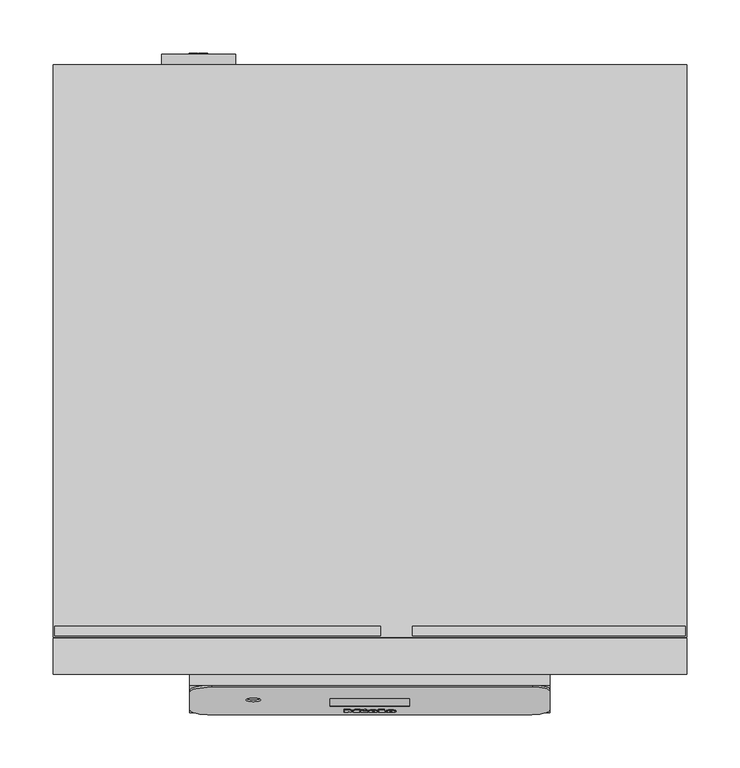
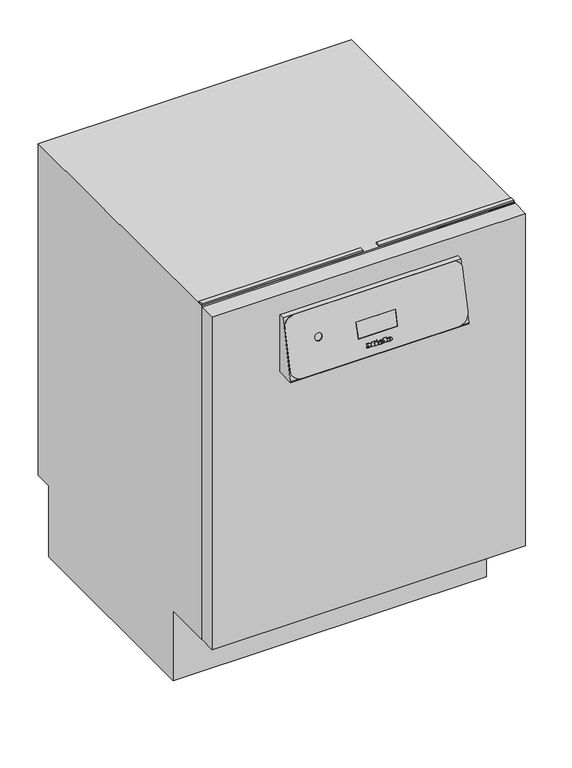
"""IFC4 building model written with IfcOpenShell, lengths in millimetres: proxy geometry, 12066590_NAM_PFD401U_SST : 61040135_NAM_12066590_PFD401U_SST."""

from ifc_helpers import new_model, si_unit, point, frame, frame_2d, origin, origin_with_axes, place, context, project, spatial, polyline, circle_curve, ellipse_curve, trimmed, segment, composite_curve, outline, extrude, source, transform, mapped, element, save
from ifc_brep_helpers import plane_surface, cylinder_surface, revolved_surface, extruded_surface, advanced_brep


def specialty_equipment_e0cb4e43(model_context):
    return source(origin(), model_context, "Body", "SolidModel", [
        advanced_brep(
        [(19.2098411, -35.3170778, 679.7116041), (19.2098411, -35.1353173, 680.4988951), (24.5618411, -35.1353173, 680.4988951), (15.2498411, -35.1353173, 680.4988951), (17.4498411, -35.743585, 677.8641985), (24.4258411, -35.3170778, 679.7116041), (22.0098411, -35.3170778, 679.7116041), (20.1058411, -35.5186339, 678.8385685), (19.2098411, -34.9049675, 681.4966501), (19.2098411, -34.7088101, 682.3463008), (20.5778411, -34.7088101, 682.3463008), (20.5778411, -34.9049675, 681.4966501), (19.2098411, -34.3427077, 679.4866531), (20.1058411, -34.5442639, 678.6136175), (22.0098411, -34.3427077, 679.4866531), (24.4258411, -34.3427077, 679.4866531), (17.4498411, -34.7692149, 677.6392474), (15.2498411, -34.1609473, 680.2739441), (24.5618411, -34.1609473, 680.2739441), (19.2098411, -34.1609473, 680.2739441), (19.2098411, -33.9305974, 681.271699), (20.5778411, -33.9305974, 681.271699), (20.5778411, -33.7344401, 682.1213497), (19.2098411, -33.7344401, 682.1213497)],
        [
            (0, 1),
            (1, 2),
            (2, 3, ellipse_curve(frame((19.9058411, -35.1353173, 680.4988951), z_axis=(0.0, -0.9743700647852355, 0.22495105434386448), x_axis=(-1.0, 0.0, 0.0)), 4.656, 3.848)),
            (3, 4, circle_curve(frame((18.3458847, -35.0741307, 680.7639238), z_axis=(0.0, -0.9743700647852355, 0.22495105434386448), x_axis=(0.0, -0.22495105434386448, -0.9743700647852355)), 3.1079688)),
            (4, 5, circle_curve(frame((19.8126347, -34.599034, 682.8217934), z_axis=(0.0, -0.9743700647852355, 0.22495105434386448), x_axis=(0.0, -0.22495105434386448, -0.9743700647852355)), 5.6098607)),
            (5, 6),
            (6, 7, circle_curve(frame((20.4968999, -35.1497142, 680.4365354), z_axis=(0.0, 0.9743700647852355, -0.22495105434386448), x_axis=(0.0, -0.22495105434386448, -0.9743700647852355)), 1.6859795)),
            (7, 0, circle_curve(frame((20.1058411, -35.3170778, 679.7116041), z_axis=(0.0, 0.9743700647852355, -0.22495105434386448), x_axis=(0.0, -0.22495105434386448, -0.9743700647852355)), 0.896)),
            (8, 9),
            (9, 10, circle_curve(frame((19.8938411, -34.7088101, 682.3463008), z_axis=(0.0, 0.9743700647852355, -0.22495105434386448), x_axis=(0.0, -0.22495105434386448, -0.9743700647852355)), 0.684)),
            (10, 11),
            (11, 8),
            (12, 13, circle_curve(frame((20.1058411, -34.3427077, 679.4866531), z_axis=(0.0, -0.9743700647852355, 0.22495105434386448), x_axis=(0.0, -0.22495105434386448, -0.9743700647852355)), 0.896)),
            (13, 14, circle_curve(frame((20.4968999, -34.1753441, 680.2115844), z_axis=(0.0, -0.9743700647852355, 0.22495105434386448), x_axis=(0.0, -0.22495105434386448, -0.9743700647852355)), 1.6859795)),
            (14, 15),
            (15, 16, circle_curve(frame((19.8126347, -33.624664, 682.5968423), z_axis=(0.0, 0.9743700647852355, -0.22495105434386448), x_axis=(0.0, -0.22495105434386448, -0.9743700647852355)), 5.6098607)),
            (16, 17, circle_curve(frame((18.3458847, -34.0997606, 680.5389727), z_axis=(0.0, 0.9743700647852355, -0.22495105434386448), x_axis=(0.0, -0.22495105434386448, -0.9743700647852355)), 3.1079688)),
            (17, 18, ellipse_curve(frame((19.9058411, -34.1609473, 680.2739441), z_axis=(0.0, 0.9743700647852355, -0.22495105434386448), x_axis=(-1.0, 0.0, 0.0)), 4.656, 3.848)),
            (18, 19),
            (19, 12),
            (20, 21),
            (21, 22),
            (22, 23, circle_curve(frame((19.8938411, -33.7344401, 682.1213497), z_axis=(0.0, -0.9743700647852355, 0.22495105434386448), x_axis=(0.0, -0.22495105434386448, -0.9743700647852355)), 0.684)),
            (23, 20),
            (0, 12),
            (19, 1),
            (18, 2),
            (5, 15),
            (14, 6),
            (17, 3),
            (13, 7),
            (16, 4),
            (8, 20),
            (23, 9),
            (22, 10),
            (21, 11),
        ],
        [
            plane_surface(frame((19.2098411, -35.1353173, 680.4988951), z_axis=(0.0, -0.9743700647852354, 0.22495105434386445), x_axis=(0.0, 0.22495105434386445, 0.9743700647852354))),
            plane_surface(frame((19.2098411, -34.1609473, 680.2739441), z_axis=(0.0, 0.9743700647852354, -0.22495105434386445), x_axis=(0.0, -0.22495105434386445, -0.9743700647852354))),
            plane_surface(frame((19.2098411, -35.3170778, 679.7116041), z_axis=(1.0, 0.0, 0.0), x_axis=(0.0, 0.9743700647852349, -0.22495105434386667))),
            plane_surface(frame((19.2098411, -35.1353173, 680.4988951), z_axis=(0.0, -0.22495105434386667, -0.9743700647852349), x_axis=(0.0, 0.9743700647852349, -0.22495105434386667))),
            plane_surface(frame((24.4258411, -35.3170778, 679.7116041), z_axis=(0.0, 0.22495105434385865, 0.9743700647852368), x_axis=(0.0, 0.9743700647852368, -0.22495105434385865))),
            extruded_surface(trimmed(ellipse_curve(frame((19.9058411, -33.1865772, 680.048993), z_axis=(0.0, -0.9743700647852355, 0.22495105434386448), x_axis=(-1.0, 0.0, 0.0)), 4.656, 3.848), [point((24.5618411, -33.1865772, 680.048993))], [point((15.2498411, -33.1865772, 680.048993))], True, "CARTESIAN"), (0.0, -0.9743700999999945, 0.2249510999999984), 1.0000000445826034),
            revolved_surface(polyline([(20.4968999, -34.55460696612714, 678.5688164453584), (20.4968999, -35.52897707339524, 678.7937675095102)]), (20.4968999, -34.1753441, 680.2115844), (0.0, 0.9743700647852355, -0.22495105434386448)),
            revolved_surface(polyline([(20.1058411, -34.544263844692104, 678.6136175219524), (20.1058411, -35.51863393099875, 678.8385685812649)]), (20.1058411, -34.3427077, 679.4866531), (0.0, 0.9743700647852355, -0.22495105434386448)),
            cylinder_surface(frame((18.3458847, -34.0997606, 680.5389727), z_axis=(0.0, -0.9743700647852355, 0.22495105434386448), x_axis=(0.0, -0.22495105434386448, -0.9743700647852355)), 3.1079688),
            cylinder_surface(frame((19.8126347, -33.624664, 682.5968423), z_axis=(0.0, -0.9743700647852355, 0.22495105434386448), x_axis=(0.0, -0.22495105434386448, -0.9743700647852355)), 5.6098607),
            plane_surface(frame((19.2098411, -34.9049675, 681.4966501), z_axis=(1.0, 0.0, 0.0), x_axis=(0.0, 0.9743700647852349, -0.22495105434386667))),
            revolved_surface(polyline([(19.8938411, -33.8883066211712, 681.4548805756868), (19.8938411, -34.8626766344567, 681.6798316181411)]), (19.8938411, -33.7344401, 682.1213497), (0.0, 0.9743700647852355, -0.22495105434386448)),
            plane_surface(frame((20.5778411, -34.7088101, 682.3463008), z_axis=(-1.0, 0.0, 0.0), x_axis=(0.0, 0.9743700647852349, -0.22495105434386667))),
            plane_surface(frame((20.5778411, -34.9049675, 681.4966501), z_axis=(0.0, 0.22495105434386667, 0.9743700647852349), x_axis=(0.0, 0.9743700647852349, -0.22495105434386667))),
        ],
        [
            (0, [[1, 2, 3, 4, 5, 6, 7, 8], [9, 10, 11, 12]]),
            (1, [[13, 14, 15, 16, 17, 18, 19, 20], [21, 22, 23, 24]]),
            (2, [[-1, 25, -20, 26]]),
            (3, [[-2, -26, -19, 27]]),
            (4, [[-6, 28, -15, 29]]),
            (5, [[-3, -27, -18, 30]]),
            (6, [[-7, -29, -14, 31]]),
            (7, [[-8, -31, -13, -25]]),
            (8, [[-4, -30, -17, 32]]),
            (9, [[-5, -32, -16, -28]]),
            (10, [[-9, 33, -24, 34]]),
            (11, [[-10, -34, -23, 35]]),
            (12, [[-11, -35, -22, 36]]),
            (13, [[-12, -36, -21, -33]]),
        ],
    ),
        advanced_brep(
        [(2.5138411, -35.3170778, 679.7116041), (2.5138411, -35.1353173, 680.4988951), (7.8658411, -35.1353173, 680.4988951), (-1.4461589, -35.1353173, 680.4988951), (0.7538411, -35.743585, 677.8641985), (7.7298411, -35.3170778, 679.7116041), (5.3138411, -35.3170778, 679.7116041), (3.4098411, -35.5186339, 678.8385685), (2.5138411, -34.9049675, 681.4966501), (2.5138411, -34.7088101, 682.3463008), (3.8818411, -34.7088101, 682.3463008), (3.8818411, -34.9049675, 681.4966501), (2.5138411, -34.3427077, 679.4866531), (3.4098411, -34.5442639, 678.6136175), (5.3138411, -34.3427077, 679.4866531), (7.7298411, -34.3427077, 679.4866531), (0.7538411, -34.7692149, 677.6392474), (-1.4461589, -34.1609473, 680.2739441), (7.8658411, -34.1609473, 680.2739441), (2.5138411, -34.1609473, 680.2739441), (2.5138411, -33.9305974, 681.271699), (3.8818411, -33.9305974, 681.271699), (3.8818411, -33.7344401, 682.1213497), (2.5138411, -33.7344401, 682.1213497)],
        [
            (0, 1),
            (1, 2),
            (2, 3, ellipse_curve(frame((3.2098411, -35.1353173, 680.4988951), z_axis=(0.0, -0.9743700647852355, 0.22495105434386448), x_axis=(-1.0, 0.0, 0.0)), 4.656, 3.848)),
            (3, 4, circle_curve(frame((1.6498847, -35.0741307, 680.7639238), z_axis=(0.0, -0.9743700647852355, 0.22495105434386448), x_axis=(0.0, -0.22495105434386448, -0.9743700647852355)), 3.1079688)),
            (4, 5, circle_curve(frame((3.1166347, -34.599034, 682.8217934), z_axis=(0.0, -0.9743700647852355, 0.22495105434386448), x_axis=(0.0, -0.22495105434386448, -0.9743700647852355)), 5.6098607)),
            (5, 6),
            (6, 7, circle_curve(frame((3.8008999, -35.1497142, 680.4365354), z_axis=(0.0, 0.9743700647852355, -0.22495105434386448), x_axis=(0.0, -0.22495105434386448, -0.9743700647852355)), 1.6859795)),
            (7, 0, circle_curve(frame((3.4098411, -35.3170778, 679.7116041), z_axis=(0.0, 0.9743700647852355, -0.22495105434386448), x_axis=(0.0, -0.22495105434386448, -0.9743700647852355)), 0.896)),
            (8, 9),
            (9, 10, circle_curve(frame((3.1978411, -34.7088101, 682.3463008), z_axis=(0.0, 0.9743700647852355, -0.22495105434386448), x_axis=(0.0, -0.22495105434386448, -0.9743700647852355)), 0.684)),
            (10, 11),
            (11, 8),
            (12, 13, circle_curve(frame((3.4098411, -34.3427077, 679.4866531), z_axis=(0.0, -0.9743700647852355, 0.22495105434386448), x_axis=(0.0, -0.22495105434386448, -0.9743700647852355)), 0.896)),
            (13, 14, circle_curve(frame((3.8008999, -34.1753441, 680.2115844), z_axis=(0.0, -0.9743700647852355, 0.22495105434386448), x_axis=(0.0, -0.22495105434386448, -0.9743700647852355)), 1.6859795)),
            (14, 15),
            (15, 16, circle_curve(frame((3.1166347, -33.624664, 682.5968423), z_axis=(0.0, 0.9743700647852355, -0.22495105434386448), x_axis=(0.0, -0.22495105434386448, -0.9743700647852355)), 5.6098607)),
            (16, 17, circle_curve(frame((1.6498847, -34.0997606, 680.5389727), z_axis=(0.0, 0.9743700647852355, -0.22495105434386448), x_axis=(0.0, -0.22495105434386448, -0.9743700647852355)), 3.1079688)),
            (17, 18, ellipse_curve(frame((3.2098411, -34.1609473, 680.2739441), z_axis=(0.0, 0.9743700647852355, -0.22495105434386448), x_axis=(-1.0, 0.0, 0.0)), 4.656, 3.848)),
            (18, 19),
            (19, 12),
            (20, 21),
            (21, 22),
            (22, 23, circle_curve(frame((3.1978411, -33.7344401, 682.1213497), z_axis=(0.0, -0.9743700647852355, 0.22495105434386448), x_axis=(0.0, -0.22495105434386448, -0.9743700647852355)), 0.684)),
            (23, 20),
            (0, 12),
            (19, 1),
            (18, 2),
            (5, 15),
            (14, 6),
            (17, 3),
            (13, 7),
            (16, 4),
            (8, 20),
            (23, 9),
            (22, 10),
            (21, 11),
        ],
        [
            plane_surface(frame((2.5138411, -35.1353173, 680.4988951), z_axis=(0.0, -0.9743700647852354, 0.22495105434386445), x_axis=(0.0, 0.22495105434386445, 0.9743700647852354))),
            plane_surface(frame((2.5138411, -34.1609473, 680.2739441), z_axis=(0.0, 0.9743700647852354, -0.22495105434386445), x_axis=(0.0, -0.22495105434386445, -0.9743700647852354))),
            plane_surface(frame((2.5138411, -35.3170778, 679.7116041), z_axis=(1.0000000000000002, 0.0, 0.0), x_axis=(0.0, 0.9743700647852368, -0.22495105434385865))),
            plane_surface(frame((2.5138411, -35.1353173, 680.4988951), z_axis=(0.0, -0.22495105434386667, -0.9743700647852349), x_axis=(0.0, 0.9743700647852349, -0.22495105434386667))),
            plane_surface(frame((7.7298411, -35.3170778, 679.7116041), z_axis=(0.0, 0.22495105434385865, 0.9743700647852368), x_axis=(0.0, 0.9743700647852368, -0.22495105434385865))),
            extruded_surface(trimmed(ellipse_curve(frame((3.2098411, -33.1865772, 680.048993), z_axis=(0.0, -0.9743700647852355, 0.22495105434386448), x_axis=(-1.0, 0.0, 0.0)), 4.656, 3.848), [point((7.8658411, -33.1865772, 680.048993))], [point((-1.4461589, -33.1865772, 680.048993))], True, "CARTESIAN"), (0.0, -0.9743700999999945, 0.2249510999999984), 1.0000000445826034),
            revolved_surface(polyline([(3.8008999, -34.55460696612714, 678.5688164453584), (3.8008999, -35.52897707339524, 678.7937675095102)]), (3.8008999, -34.1753441, 680.2115844), (0.0, 0.9743700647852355, -0.22495105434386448)),
            revolved_surface(polyline([(3.4098411, -34.544263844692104, 678.6136175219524), (3.4098411, -35.51863393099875, 678.8385685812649)]), (3.4098411, -34.3427077, 679.4866531), (0.0, 0.9743700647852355, -0.22495105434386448)),
            cylinder_surface(frame((1.6498847, -34.0997606, 680.5389727), z_axis=(0.0, -0.9743700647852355, 0.22495105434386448), x_axis=(0.0, -0.22495105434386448, -0.9743700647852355)), 3.1079688),
            cylinder_surface(frame((3.1166347, -33.624664, 682.5968423), z_axis=(0.0, -0.9743700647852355, 0.22495105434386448), x_axis=(0.0, -0.22495105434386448, -0.9743700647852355)), 5.6098607),
            plane_surface(frame((2.5138411, -34.9049675, 681.4966501), z_axis=(1.0, 0.0, 0.0), x_axis=(0.0, 0.9743700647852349, -0.22495105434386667))),
            revolved_surface(polyline([(3.1978411, -33.8883066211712, 681.4548805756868), (3.1978411, -34.8626766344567, 681.6798316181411)]), (3.1978411, -33.7344401, 682.1213497), (0.0, 0.9743700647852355, -0.22495105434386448)),
            plane_surface(frame((3.8818411, -34.7088101, 682.3463008), z_axis=(-1.0, 0.0, 0.0), x_axis=(0.0, 0.9743700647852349, -0.22495105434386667))),
            plane_surface(frame((3.8818411, -34.9049675, 681.4966501), z_axis=(0.0, 0.22495105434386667, 0.9743700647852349), x_axis=(0.0, 0.9743700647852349, -0.22495105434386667))),
        ],
        [
            (0, [[1, 2, 3, 4, 5, 6, 7, 8], [9, 10, 11, 12]]),
            (1, [[13, 14, 15, 16, 17, 18, 19, 20], [21, 22, 23, 24]]),
            (2, [[-1, 25, -20, 26]]),
            (3, [[-2, -26, -19, 27]]),
            (4, [[-6, 28, -15, 29]]),
            (5, [[-3, -27, -18, 30]]),
            (6, [[-7, -29, -14, 31]]),
            (7, [[-8, -31, -13, -25]]),
            (8, [[-4, -30, -17, 32]]),
            (9, [[-5, -32, -16, -28]]),
            (10, [[-9, 33, -24, 34]]),
            (11, [[-10, -34, -23, 35]]),
            (12, [[-11, -35, -22, 36]]),
            (13, [[-12, -36, -21, -33]]),
        ],
    ),
        extrude(outline(polyline([(0.0, 0.0), (-0.0109087, -2.9993294), (-1.4390415, -2.9920868), (-1.4315307, 0.0), (0.0, 0.0)])), frame((-6.2301589, -33.0757834, 684.9743053), z_axis=(0.0, -0.9743700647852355, 0.2249510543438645), x_axis=(-0.42472021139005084, 0.20365373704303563, 0.8821212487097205)), (0.0, 0.0, 1.0), 1.0),
        extrude(outline(polyline([(-0.4933908, 2.4141097), (-2.7800844, -2.4601583), (-7.0459742, -0.4588767), (-7.4401146, -1.2990179), (-8.6568709, -0.728194), (-5.9760369, 4.9862153), (-4.7592806, 4.4153913), (-5.1636142, 3.5535222), (-2.1941493, 2.16044), (-1.7898157, 3.022309), (-0.4933908, 2.4141097)])), frame((-6.2301589, -33.0757834, 684.9743053), z_axis=(0.0, -0.9743700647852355, 0.2249510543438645), x_axis=(-0.42472021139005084, 0.20365373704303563, 0.8821212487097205)), (0.0, 0.0, 1.0), 1.0),
        extrude(outline(polyline([(0.0, 0.0), (0.0, -1.3039999), (-5.504, -1.3039999), (-5.504, 5.352), (-6.488, 5.352), (-6.488, 6.696), (0.0, 6.696), (0.0, 5.352), (-0.96, 5.352), (-0.96, 0.0), (0.0, 0.0)])), frame((8.3138411, -33.2629427, 684.1636294), z_axis=(0.0, -0.9743700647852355, 0.22495105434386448), x_axis=(-1.0, 0.0, 0.0)), (0.0, 0.0, 1.0), 1.0),
        extrude(outline(polyline([(0.0, 0.0), (0.0, -1.3039999), (-5.576, -1.3039999), (-7.92, 1.6960001), (-10.256, -1.3039999), (-15.128, -1.3039999), (-15.128, 0.0), (-14.112, 0.0), (-14.112, 5.352), (-15.128, 5.352), (-15.128, 6.696), (-8.744, 6.696), (-8.744, 5.352), (-9.728, 5.352), (-9.728, 1.8807777), (-6.136, 6.696), (-2.56, 1.9488752), (-2.56, 5.352), (-3.52, 5.352), (-3.52, 6.696), (0.0, 6.696), (0.0, 5.352), (-0.968, 5.352), (-0.968, 0.0), (0.0, 0.0)])), frame((-24.1501589, -33.2629427, 684.1636294), z_axis=(0.0, -0.9743700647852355, 0.22495105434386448), x_axis=(-1.0, 0.0, 0.0)), (0.0, 0.0, 1.0), 1.0),
        extrude(outline(polyline([(-0.1038681, 775.5857792), (-0.1038681, 660.0), (-36.1981904, 660.0), (-36.1981904, 662.5588517), (-10.1038681, 775.5857792), (-0.1038681, 775.5857792)])), frame((-169.8831565, 0.0, 0.0), z_axis=(1.0, 0.0, 0.0), x_axis=(0.0, 1.0, 0.0)), (0.0, 0.0, 1.0), 339.766313),
        extrude(outline(polyline([(299.0, 34.0), (299.0, 0.0), (-299.0, 0.0), (-299.0, 34.0), (299.0, 34.0)])), frame((0.0, 0.0, 145.0), z_axis=(0.0, 0.0, 1.0), x_axis=(1.0, 0.0, 0.0)), (0.0, 0.0, 1.0), 670.0),
        advanced_brep(
        [(153.3281651, -12.0526082, 776.0356813), (-148.8831565, -12.0526082, 776.0356813), (-169.8831565, -16.7765804, 755.57391), (-169.8831565, -33.4229584, 683.4705252), (-148.8831565, -38.1469305, 663.0087538), (148.8831565, -38.1469305, 663.0087538), (169.8831565, -33.4229584, 683.4705252), (169.8831565, -15.776671, 759.9049933), (-102.8831565, -24.0088923, 724.2473253), (-116.8831565, -24.0088923, 724.2473253), (37.5, -23.1425191, 728.0), (37.5, -30.0685648, 698.0), (-37.5, -30.0685648, 698.0), (-37.5, -23.1425191, 728.0), (153.3281651, -10.1038681, 775.5857792), (169.8831565, -13.8279308, 759.4550912), (169.8831565, -31.4742182, 683.0206231), (148.8831565, -36.1981904, 662.5588517), (-148.8831565, -36.1981904, 662.5588517), (-169.8831565, -31.4742182, 683.0206231), (-169.8831565, -14.8278402, 755.1240079), (-148.8831565, -10.1038681, 775.5857792), (37.5, -28.0159566, 698.0), (37.5, -21.0899109, 728.0), (-37.5, -21.0899109, 728.0), (-37.5, -28.0159566, 698.0), (-116.8831565, -22.4281396, 723.8823798), (-102.8831565, -22.4281396, 723.8823798)],
        [
            (0, 1),
            (1, 2, circle_curve(frame((-148.8831565, -16.7765804, 755.57391), z_axis=(0.0, -0.9743700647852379, 0.22495105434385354), x_axis=(1.0, 0.0, 0.0)), 21.0)),
            (2, 3),
            (3, 4, circle_curve(frame((-148.8831565, -33.4229584, 683.4705252), z_axis=(0.0, -0.9743700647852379, 0.22495105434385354), x_axis=(1.0, 0.0, 0.0)), 21.0)),
            (4, 5),
            (5, 6, circle_curve(frame((148.8831565, -33.4229584, 683.4705252), z_axis=(0.0, -0.9743700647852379, 0.22495105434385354), x_axis=(1.0, 0.0, 0.0)), 21.0)),
            (6, 7),
            (7, 0, circle_curve(frame((153.3281651, -15.776671, 759.9049933), z_axis=(0.0, -0.9743700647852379, 0.22495105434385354), x_axis=(1.0, 0.0, 0.0)), 16.5549913)),
            (8, 9, circle_curve(frame((-109.8831565, -24.0088923, 724.2473253), z_axis=(0.0, 0.9743700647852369, -0.22495105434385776), x_axis=(1.0, 0.0, 0.0)), 7.0)),
            (9, 8, circle_curve(frame((-109.8831565, -24.0088923, 724.2473253), z_axis=(0.0, 0.9743700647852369, -0.22495105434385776), x_axis=(1.0, 0.0, 0.0)), 7.0)),
            (10, 11),
            (11, 12),
            (12, 13),
            (13, 10),
            (14, 15, circle_curve(frame((153.3281651, -13.8279308, 759.4550912), z_axis=(0.0, 0.9743700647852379, -0.22495105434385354), x_axis=(1.0, 0.0, 0.0)), 16.5549913)),
            (15, 16),
            (16, 17, circle_curve(frame((148.8831565, -31.4742182, 683.0206231), z_axis=(0.0, 0.9743700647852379, -0.22495105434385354), x_axis=(1.0, 0.0, 0.0)), 21.0)),
            (17, 18),
            (18, 19, circle_curve(frame((-148.8831565, -31.4742182, 683.0206231), z_axis=(0.0, 0.9743700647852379, -0.22495105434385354), x_axis=(1.0, 0.0, 0.0)), 21.0)),
            (19, 20),
            (20, 21, circle_curve(frame((-148.8831565, -14.8278402, 755.1240079), z_axis=(0.0, 0.9743700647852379, -0.22495105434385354), x_axis=(1.0, 0.0, 0.0)), 21.0)),
            (21, 14),
            (22, 23),
            (23, 24),
            (24, 25),
            (25, 22),
            (0, 14),
            (21, 1),
            (20, 2),
            (19, 3),
            (18, 4),
            (17, 5),
            (16, 6),
            (15, 7),
            (10, 23),
            (22, 11),
            (12, 25),
            (24, 13),
            (26, 27, circle_curve(frame((-109.8831565, -22.4281396, 723.8823798), z_axis=(0.0, -0.9743700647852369, 0.22495105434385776), x_axis=(1.0, 0.0, 0.0)), 7.0)),
            (27, 26, circle_curve(frame((-109.8831565, -22.4281396, 723.8823798), z_axis=(0.0, -0.9743700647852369, 0.22495105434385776), x_axis=(1.0, 0.0, 0.0)), 7.0)),
            (26, 9),
            (8, 27),
        ],
        [
            plane_surface(frame((-166.8819453, -12.0526082, 776.0356813), z_axis=(0.0, -0.9743700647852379, 0.22495105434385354), x_axis=(-1.0, 0.0, 0.0))),
            plane_surface(frame((-166.8819453, -10.1038681, 775.5857792), z_axis=(0.0, 0.9743700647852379, -0.22495105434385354), x_axis=(1.0, 0.0, 0.0))),
            plane_surface(frame((153.3281651, -12.0526082, 776.0356813), z_axis=(0.0, 0.22495105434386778, 0.9743700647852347), x_axis=(0.0, 0.9743700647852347, -0.22495105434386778))),
            cylinder_surface(frame((-148.8831565, -14.8278402, 755.1240079), z_axis=(0.0, -0.9743700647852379, 0.22495105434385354), x_axis=(1.0, 0.0, 0.0)), 21.0),
            plane_surface(frame((-169.8831565, -16.7765804, 755.57391), z_axis=(-1.0, 0.0, 0.0), x_axis=(0.0, 0.9743700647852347, -0.22495105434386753))),
            cylinder_surface(frame((-148.8831565, -31.4742182, 683.0206231), z_axis=(0.0, -0.9743700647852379, 0.22495105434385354), x_axis=(1.0, 0.0, 0.0)), 21.0),
            plane_surface(frame((-148.8831565, -38.1469305, 663.0087538), z_axis=(0.0, -0.22495105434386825, -0.9743700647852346), x_axis=(0.0, 0.9743700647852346, -0.22495105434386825))),
            cylinder_surface(frame((148.8831565, -31.4742182, 683.0206231), z_axis=(0.0, -0.9743700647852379, 0.22495105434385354), x_axis=(1.0, 0.0, 0.0)), 21.0),
            plane_surface(frame((169.8831565, -33.4229584, 683.4705252), z_axis=(1.0000000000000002, 0.0, 0.0), x_axis=(0.0, 0.9743700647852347, -0.22495105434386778))),
            cylinder_surface(frame((153.3281651, -13.8279308, 759.4550912), z_axis=(0.0, -0.9743700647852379, 0.22495105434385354), x_axis=(1.0, 0.0, 0.0)), 16.5549913),
            plane_surface(frame((37.5, -23.1425191, 728.0), z_axis=(-1.0000000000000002, 0.0, 0.0), x_axis=(0.0, -0.22495105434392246, -0.974370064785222))),
            plane_surface(frame((-37.5, -23.1425191, 728.0), z_axis=(1.0000000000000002, 0.0, 0.0), x_axis=(0.0, 0.22495105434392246, 0.974370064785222))),
            plane_surface(frame((37.5, -30.0685648, 698.0), z_axis=(0.0, 0.0, 1.0), x_axis=(-1.0, 0.0, 0.0))),
            plane_surface(frame((37.5, -21.0899109, 728.0), z_axis=(0.0, 0.0, -1.0), x_axis=(-1.0, 0.0, 0.0))),
            plane_surface(frame((-102.8831565, -22.4281396, 723.8823798), z_axis=(0.0, -0.9743700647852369, 0.2249510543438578), x_axis=(0.0, -0.2249510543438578, -0.9743700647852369))),
            revolved_surface(polyline([(-102.8831565, -24.008892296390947, 724.2473253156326), (-102.8831565, -22.4281396, 723.8823798)]), (-109.8831565, -22.4281396, 723.8823798), (0.0, -0.9743700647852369, 0.22495105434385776)),
        ],
        [
            (0, [[1, 2, 3, 4, 5, 6, 7, 8], [9, 10], [11, 12, 13, 14]]),
            (1, [[15, 16, 17, 18, 19, 20, 21, 22], [23, 24, 25, 26]]),
            (2, [[-1, 27, -22, 28]]),
            (3, [[-2, -28, -21, 29]]),
            (4, [[-3, -29, -20, 30]]),
            (5, [[-4, -30, -19, 31]]),
            (6, [[-5, -31, -18, 32]]),
            (7, [[-6, -32, -17, 33]]),
            (8, [[-7, -33, -16, 34]]),
            (9, [[-8, -34, -15, -27]]),
            (10, [[35, -23, 36, -11]]),
            (11, [[37, -25, 38, -13]]),
            (12, [[-36, -26, -37, -12]]),
            (13, [[-35, -14, -38, -24]]),
            (14, [[39, 40]]),
            (15, [[-39, 41, -9, 42]]),
            (15, [[-40, -42, -10, -41]]),
        ],
    ),
        extrude(outline(polyline([(-23.1425191, 728.0), (-21.0899109, 728.0), (-28.0159566, 698.0), (-30.0685648, 698.0), (-23.1425191, 728.0)])), frame((-37.5, 0.0, 0.0), z_axis=(1.0, 0.0, 0.0), x_axis=(0.0, 1.0, 0.0)), (0.0, 0.0, 1.0), 75.0),
        extrude(outline(polyline([(297.9027562, 45.259625), (297.9027562, 36.259625), (40.425123, 36.259625), (40.425123, 45.259625), (297.9027562, 45.259625)])), frame((0.0, 0.0, 817.0), z_axis=(0.0, 0.0, 1.0), x_axis=(1.0, 0.0, 0.0)), (0.0, 0.0, 1.0), 3.0),
        extrude(outline(polyline([(10.1158911, 45.259625), (10.1158911, 36.259625), (-297.5390632, 36.259625), (-297.5390632, 45.259625), (10.1158911, 45.259625)])), frame((0.0, 0.0, 817.0), z_axis=(0.0, 0.0, 1.0), x_axis=(1.0, 0.0, 0.0)), (0.0, 0.0, 1.0), 3.0),
        extrude(outline(polyline([(35.0, 817.0), (575.0, 817.0), (575.0, 148.0), (541.0, 148.0), (541.0, 4.2000122), (129.0, 4.2000122), (129.0, 145.0), (35.0, 145.0), (35.0, 817.0)])), frame((-299.0, 0.0, 0.0), z_axis=(1.0, 0.0, 0.0), x_axis=(0.0, 1.0, 0.0)), (0.0, 0.0, 1.0), 598.0),
        extrude(outline(polyline([(-172.0947306, 541.0), (-252.9150967, 541.0), (-252.9150967, 546.8796322), (-172.0947306, 546.8796322), (-172.0947306, 541.0)])), frame((0.0, 0.0, 83.2113443), z_axis=(0.0, 0.0, 1.0), x_axis=(1.0, 0.0, 0.0)), (0.0, 0.0, 1.0), 9.5402229),
        extrude(outline(polyline([(-172.0947306, 541.0), (-252.9150967, 541.0), (-252.9150967, 546.8796322), (-172.0947306, 546.8796322), (-172.0947306, 541.0)])), frame((0.0, 0.0, 49.1113767), z_axis=(0.0, 0.0, 1.0), x_axis=(1.0, 0.0, 0.0)), (0.0, 0.0, 1.0), 11.5700235),
        extrude(outline(polyline([(-172.0947306, 541.0), (-252.9150967, 541.0), (-252.9150967, 546.8796322), (-172.0947306, 546.8796322), (-172.0947306, 541.0)])), frame((0.0, 0.0, 67.2113431), z_axis=(0.0, 0.0, 1.0), x_axis=(1.0, 0.0, 0.0)), (0.0, 0.0, 1.0), 9.5826234),
        extrude(outline(polyline([(70.6242327, 186.565003), (80.6698637, 186.565003), (80.6698637, 179.3447057), (79.4141598, 179.3447057), (79.4141598, 185.3092991), (76.4318631, 185.3092991), (76.4318631, 179.6586317), (75.1761592, 179.6586317), (75.1761592, 185.3092991), (71.8799366, 185.3092991), (71.8799366, 179.1877427), (70.6242327, 179.1877427), (70.6242327, 186.565003)])), frame((0.0, 571.0, 0.0), z_axis=(0.0, 1.0, 0.0), x_axis=(0.0, 0.0, 1.0)), (0.0, 0.0, 1.0), 1.0),
        extrude(outline(polyline([(70.6242327, 177.3041869), (80.6698637, 177.3041869), (80.6698637, 176.048483), (71.8799366, 176.048483), (71.8799366, 171.0256675), (70.6242327, 171.0256675), (70.6242327, 177.3041869)])), frame((0.0, 571.0, 0.0), z_axis=(0.0, 1.0, 0.0), x_axis=(0.0, 0.0, 1.0)), (0.0, 0.0, 1.0), 1.0),
        extrude(outline(polyline([(46.0, 96.7862239), (56.045631, 92.7763102), (56.045631, 91.7069998), (46.0, 87.6970861), (46.0, 89.0239138), (49.1392597, 90.1741582), (49.1392597, 94.3116044), (46.0, 95.4593962), (46.0, 96.7862239)]), holes=[polyline([(50.3949636, 93.8505256), (50.3949636, 90.6327844), (52.864678, 91.5377741), (54.7899271, 92.241655), (53.0805021, 92.8670544), (50.3949636, 93.8505256)])]), frame((0.0, 571.0, 0.0), z_axis=(0.0, 1.0, 0.0), x_axis=(0.0, 0.0, 1.0)), (0.0, 0.0, 1.0), 1.0),
        extrude(outline(polyline([(46.0, 84.5578264), (56.045631, 87.297321), (56.045631, 86.0023764), (49.4433755, 84.4131261), (47.4053092, 83.9226168), (49.207931, 83.3977718), (56.045631, 81.406304), (56.045631, 79.539916), (51.0890343, 78.0929135), (47.4053092, 77.0162455), (49.3845144, 76.5404514), (56.045631, 74.936486), (56.045631, 73.6415413), (46.0, 76.3834885), (46.0, 77.7250315), (53.7500474, 80.1334323), (54.8316204, 80.4694312), (53.5293182, 80.8471233), (46.0, 83.0421526), (46.0, 84.5578264)])), frame((0.0, 571.0, 0.0), z_axis=(0.0, 1.0, 0.0), x_axis=(0.0, 0.0, 1.0)), (0.0, 0.0, 1.0), 1.0),
        extrude(outline(composite_curve([segment(trimmed(circle_curve(frame_2d((51.0, 85.0998392)), 8.0), [point((51.0, 77.0998392))], [point((51.0, 93.0998392))], False, "CARTESIAN"), True, "CONTINUOUS"), segment(trimmed(circle_curve(frame_2d((51.0, 85.0998392)), 8.0), [point((51.0, 93.0998392))], [point((51.0, 77.0998392))], False, "CARTESIAN"), True, "CONTINUOUS")], self_intersect=False)), frame((0.0, 541.0, 0.0), z_axis=(0.0, 1.0, 0.0), x_axis=(0.0, 0.0, 1.0)), (0.0, 0.0, 1.0), 30.0),
        extrude(outline(polyline([(94.6239875, 133.557834), (104.6696185, 136.2973286), (104.6696185, 135.002384), (98.067363, 133.4131338), (96.0292967, 132.9226244), (97.8319185, 132.3977795), (104.6696185, 130.4063116), (104.6696185, 128.5399236), (99.7130218, 127.0929211), (96.0292967, 126.0162531), (98.0085019, 125.5404591), (104.6696185, 123.9364936), (104.6696185, 122.641549), (94.6239875, 125.3834961), (94.6239875, 126.7250391), (102.3740349, 129.1334399), (103.4556079, 129.4694388), (102.1533057, 129.847131), (94.6239875, 132.0421602), (94.6239875, 133.557834)])), frame((0.0, 571.0, 0.0), z_axis=(0.0, 1.0, 0.0), x_axis=(0.0, 0.0, 1.0)), (0.0, 0.0, 1.0), 1.0),
        extrude(outline(polyline([(94.6239875, 144.6163668), (104.6696185, 144.6163668), (104.6696185, 143.3606629), (99.7522625, 143.3606629), (104.6696185, 138.210315), (104.6696185, 136.4542916), (100.53953, 140.7781313), (94.6239875, 136.2973286), (94.6239875, 137.8326228), (99.6909489, 141.6684057), (98.0771732, 143.3606629), (94.6239875, 143.3606629), (94.6239875, 144.6163668)])), frame((0.0, 571.0, 0.0), z_axis=(0.0, 1.0, 0.0), x_axis=(0.0, 0.0, 1.0)), (0.0, 0.0, 1.0), 1.0),
        extrude(outline(polyline([(118.1398187, 18.2077062), (128.1854497, 18.2077062), (128.1854497, 14.7422578), (128.0407495, 12.9494462), (127.3221533, 11.4730132), (125.6053707, 10.283528), (123.2165903, 9.888668), (121.1895605, 10.1559956), (119.7266164, 10.8427087), (118.8154953, 11.7599611), (118.311497, 12.9604827), (118.1398187, 14.5754846), (118.1398187, 18.2077062)]), holes=[polyline([(119.3955226, 16.9520023), (119.3955226, 14.7299951), (119.5770111, 13.1137669), (120.0895933, 12.1817991), (121.3367133, 11.4178309), (123.2362106, 11.1443719), (125.6151809, 11.6802533), (126.728637, 12.9837819), (126.9297459, 14.7643307), (126.9297459, 16.9520023), (119.3955226, 16.9520023)])]), frame((0.0, 571.0, 0.0), z_axis=(0.0, 1.0, 0.0), x_axis=(0.0, 0.0, 1.0)), (0.0, 0.0, 1.0), 1.0),
        extrude(outline(polyline([(121.5930044, 8.6329642), (121.5930044, 7.3772603), (120.3360742, 6.9725901), (119.5414491, 5.9842138), (119.2385596, 4.4783502), (119.4678727, 3.1662377), (120.0981772, 2.3188828), (120.940627, 2.0405188), (121.7242156, 2.2489853), (122.2944327, 3.1024715), (122.7739056, 4.930845), (123.3931736, 6.8990137), (124.3275939, 7.9670977), (125.5759401, 8.3190382), (126.9971909, 7.8837112), (128.0002825, 6.6120657), (128.3424127, 4.7505828), (127.9843409, 2.7640201), (126.9321984, 1.4396449), (125.360116, 0.9417779), (125.360116, 2.1974818), (126.6501555, 2.9087203), (127.0867088, 4.7015319), (126.6550606, 6.4992486), (125.6127283, 7.0633343), (124.7420743, 6.6635692), (124.0406459, 4.6132402), (123.4103414, 2.391233), (122.3925346, 1.1759961), (120.9725101, 0.7848149), (119.4703253, 1.2348572), (118.3740369, 2.5298019), (117.9828557, 4.4292992), (118.4046938, 6.6721531), (119.6751129, 8.0909513), (121.5930044, 8.6329642)])), frame((0.0, 571.0, 0.0), z_axis=(0.0, 1.0, 0.0), x_axis=(0.0, 0.0, 1.0)), (0.0, 0.0, 1.0), 1.0),
        extrude(outline(composite_curve([segment(trimmed(circle_curve(frame_2d((126.8499756, 10.1811127)), 2.9851521), [point((126.8499756, 7.1959606))], [point((126.8499756, 13.1662647))], False, "CARTESIAN"), True, "CONTINUOUS"), segment(trimmed(circle_curve(frame_2d((126.8499756, 10.1811127)), 2.9851521), [point((126.8499756, 13.1662647))], [point((126.8499756, 7.1959606))], False, "CARTESIAN"), True, "CONTINUOUS")], self_intersect=False)), frame((0.0, 541.0, 0.0), z_axis=(0.0, 1.0, 0.0), x_axis=(0.0, 0.0, 1.0)), (0.0, 0.0, 1.0), 30.0),
        extrude(outline(composite_curve([segment(trimmed(circle_curve(frame_2d((117.0999756, 10.1811127)), 3.0), [point((117.0999756, 7.1811127))], [point((117.0999756, 13.1811127))], False, "CARTESIAN"), True, "CONTINUOUS"), segment(trimmed(circle_curve(frame_2d((117.0999756, 10.1811127)), 3.0), [point((117.0999756, 13.1811127))], [point((117.0999756, 7.1811127))], False, "CARTESIAN"), True, "CONTINUOUS")], self_intersect=False)), frame((0.0, 541.0, 0.0), z_axis=(0.0, 1.0, 0.0), x_axis=(0.0, 0.0, 1.0)), (0.0, 0.0, 1.0), 30.0),
        extrude(outline(composite_curve([segment(trimmed(circle_curve(frame_2d((107.3499443, 10.1811127)), 3.0), [point((107.3499443, 7.1811127))], [point((107.3499443, 13.1811127))], False, "CARTESIAN"), True, "CONTINUOUS"), segment(trimmed(circle_curve(frame_2d((107.3499443, 10.1811127)), 3.0), [point((107.3499443, 13.1811127))], [point((107.3499443, 7.1811127))], False, "CARTESIAN"), True, "CONTINUOUS")], self_intersect=False)), frame((0.0, 541.0, 0.0), z_axis=(0.0, 1.0, 0.0), x_axis=(0.0, 0.0, 1.0)), (0.0, 0.0, 1.0), 30.0),
        extrude(outline(composite_curve([segment(trimmed(circle_curve(frame_2d((136.5999756, 10.1811127)), 3.0), [point((136.5999756, 7.1811127))], [point((136.5999756, 13.1811127))], False, "CARTESIAN"), True, "CONTINUOUS"), segment(trimmed(circle_curve(frame_2d((136.5999756, 10.1811127)), 3.0), [point((136.5999756, 13.1811127))], [point((136.5999756, 7.1811127))], False, "CARTESIAN"), True, "CONTINUOUS")], self_intersect=False)), frame((0.0, 541.0, 0.0), z_axis=(0.0, 1.0, 0.0), x_axis=(0.0, 0.0, 1.0)), (0.0, 0.0, 1.0), 30.0),
        extrude(outline(polyline([(99.6239875, 19.6811122), (148.0, 19.6811122), (148.0, 1.1811127), (99.6239875, 1.1811127), (99.6239875, 19.6811122)]), holes=[polyline([(100.6239875, 18.6811122), (100.6239875, 2.1811127), (147.0, 2.1811127), (147.0, 18.6811122), (100.6239875, 18.6811122)])]), frame((0.0, 541.0, 0.0), z_axis=(0.0, 1.0, 0.0), x_axis=(0.0, 0.0, 1.0)), (0.0, 0.0, 1.0), 1.0),
        extrude(outline(polyline([(41.5900269, 145.1730949), (51.6356579, 147.9125895), (51.6356579, 146.6176449), (45.0334023, 145.0283946), (42.9953361, 144.5378853), (44.7979579, 144.0130403), (51.6356579, 142.0215725), (51.6356579, 140.1551845), (46.6790611, 138.708182), (42.9953361, 137.631514), (44.9745412, 137.1557199), (51.6356579, 135.5517544), (51.6356579, 134.2568098), (41.5900269, 136.998757), (41.5900269, 138.3403), (49.3400742, 140.7487008), (50.4216473, 141.0846996), (49.119345, 141.4623918), (41.5900269, 143.6574211), (41.5900269, 145.1730949)])), frame((0.0, 571.0, 0.0), z_axis=(0.0, 1.0, 0.0), x_axis=(0.0, 0.0, 1.0)), (0.0, 0.0, 1.0), 1.0),
        extrude(outline(polyline([(41.5900269, 131.2033893), (51.6356579, 133.9428838), (51.6356579, 132.6479392), (45.0334023, 131.058689), (42.9953361, 130.5681797), (44.7979579, 130.0433347), (51.6356579, 128.0518668), (51.6356579, 126.1854788), (46.6790611, 124.7384763), (42.9953361, 123.6618084), (44.9745412, 123.1860143), (51.6356579, 121.5820488), (51.6356579, 120.2871042), (41.5900269, 123.0290513), (41.5900269, 124.3705943), (49.3400742, 126.7789951), (50.4216473, 127.114994), (49.119345, 127.4926862), (41.5900269, 129.6877154), (41.5900269, 131.2033893)])), frame((0.0, 571.0, 0.0), z_axis=(0.0, 1.0, 0.0), x_axis=(0.0, 0.0, 1.0)), (0.0, 0.0, 1.0), 1.0),
        extrude(outline(composite_curve([segment(trimmed(circle_curve(frame_2d((46.5900269, 134.0998468)), 8.0), [point((46.5900269, 126.0998468))], [point((46.5900269, 142.0998468))], False, "CARTESIAN"), True, "CONTINUOUS"), segment(trimmed(circle_curve(frame_2d((46.5900269, 134.0998468)), 8.0), [point((46.5900269, 142.0998468))], [point((46.5900269, 126.0998468))], False, "CARTESIAN"), True, "CONTINUOUS")], self_intersect=False)), frame((0.0, 541.0, 0.0), z_axis=(0.0, 1.0, 0.0), x_axis=(0.0, 0.0, 1.0)), (0.0, 0.0, 1.0), 30.0),
        extrude(outline(polyline([(118.1398187, -7.1235653), (128.1854497, -7.1235653), (128.1854497, -10.5890137), (128.0407495, -12.3818253), (127.3221533, -13.8582584), (125.6053707, -15.0477435), (123.2165903, -15.4426035), (121.1895605, -15.1752759), (119.7266164, -14.4885629), (118.8154953, -13.5713104), (118.311497, -12.3707889), (118.1398187, -10.7557869), (118.1398187, -7.1235653)]), holes=[polyline([(119.3955226, -8.3792692), (119.3955226, -10.6012765), (119.5770111, -12.2175047), (120.0895933, -13.1494724), (121.3367133, -13.9134407), (123.2362106, -14.1868996), (125.6151809, -13.6510182), (126.728637, -12.3474897), (126.9297459, -10.5669408), (126.9297459, -8.3792692), (119.3955226, -8.3792692)])]), frame((0.0, 571.0, 0.0), z_axis=(0.0, 1.0, 0.0), x_axis=(0.0, 0.0, 1.0)), (0.0, 0.0, 1.0), 1.0),
        extrude(outline(polyline([(121.5930044, -16.6983074), (121.5930044, -17.9540113), (120.3360742, -18.3586815), (119.5414491, -19.3470578), (119.2385596, -20.8529214), (119.4678727, -22.1650338), (120.0981772, -23.0123887), (120.940627, -23.2907528), (121.7242156, -23.0822863), (122.2944327, -22.2288001), (122.7739056, -20.4004265), (123.3931736, -18.4322579), (124.3275939, -17.3641738), (125.5759401, -17.0122334), (126.9971909, -17.4475604), (128.0002825, -18.7192058), (128.3424127, -20.5806887), (127.9843409, -22.5672515), (126.9321984, -23.8916267), (125.360116, -24.3894936), (125.360116, -23.1337898), (126.6501555, -22.4225512), (127.0867088, -20.6297397), (126.6550606, -18.832023), (125.6127283, -18.2679372), (124.7420743, -18.6677023), (124.0406459, -20.7180313), (123.4103414, -22.9400386), (122.3925346, -24.1552754), (120.9725101, -24.5464566), (119.4703253, -24.0964143), (118.3740369, -22.8014697), (117.9828557, -20.9019723), (118.4046938, -18.6591184), (119.6751129, -17.2403202), (121.5930044, -16.6983074)])), frame((0.0, 571.0, 0.0), z_axis=(0.0, 1.0, 0.0), x_axis=(0.0, 0.0, 1.0)), (0.0, 0.0, 1.0), 1.0),
        extrude(outline(composite_curve([segment(trimmed(circle_curve(frame_2d((126.8499756, -15.1501589)), 2.9851521), [point((126.8499756, -18.135311))], [point((126.8499756, -12.1650068))], False, "CARTESIAN"), True, "CONTINUOUS"), segment(trimmed(circle_curve(frame_2d((126.8499756, -15.1501589)), 2.9851521), [point((126.8499756, -12.1650068))], [point((126.8499756, -18.135311))], False, "CARTESIAN"), True, "CONTINUOUS")], self_intersect=False)), frame((0.0, 541.0, 0.0), z_axis=(0.0, 1.0, 0.0), x_axis=(0.0, 0.0, 1.0)), (0.0, 0.0, 1.0), 30.0),
        extrude(outline(composite_curve([segment(trimmed(circle_curve(frame_2d((117.0999756, -15.1501589)), 3.0), [point((117.0999756, -18.1501589))], [point((117.0999756, -12.1501589))], False, "CARTESIAN"), True, "CONTINUOUS"), segment(trimmed(circle_curve(frame_2d((117.0999756, -15.1501589)), 3.0), [point((117.0999756, -12.1501589))], [point((117.0999756, -18.1501589))], False, "CARTESIAN"), True, "CONTINUOUS")], self_intersect=False)), frame((0.0, 541.0, 0.0), z_axis=(0.0, 1.0, 0.0), x_axis=(0.0, 0.0, 1.0)), (0.0, 0.0, 1.0), 30.0),
        extrude(outline(composite_curve([segment(trimmed(circle_curve(frame_2d((107.3499443, -15.1501589)), 3.0), [point((107.3499443, -18.1501589))], [point((107.3499443, -12.1501589))], False, "CARTESIAN"), True, "CONTINUOUS"), segment(trimmed(circle_curve(frame_2d((107.3499443, -15.1501589)), 3.0), [point((107.3499443, -12.1501589))], [point((107.3499443, -18.1501589))], False, "CARTESIAN"), True, "CONTINUOUS")], self_intersect=False)), frame((0.0, 541.0, 0.0), z_axis=(0.0, 1.0, 0.0), x_axis=(0.0, 0.0, 1.0)), (0.0, 0.0, 1.0), 30.0),
        extrude(outline(composite_curve([segment(trimmed(circle_curve(frame_2d((136.5999756, -15.1501589)), 3.0), [point((136.5999756, -18.1501589))], [point((136.5999756, -12.1501589))], False, "CARTESIAN"), True, "CONTINUOUS"), segment(trimmed(circle_curve(frame_2d((136.5999756, -15.1501589)), 3.0), [point((136.5999756, -12.1501589))], [point((136.5999756, -18.1501589))], False, "CARTESIAN"), True, "CONTINUOUS")], self_intersect=False)), frame((0.0, 541.0, 0.0), z_axis=(0.0, 1.0, 0.0), x_axis=(0.0, 0.0, 1.0)), (0.0, 0.0, 1.0), 30.0),
        extrude(outline(polyline([(99.6239875, -5.6501594), (148.0, -5.6501594), (148.0, -24.1501589), (99.6239875, -24.1501589), (99.6239875, -5.6501594)]), holes=[polyline([(100.6239875, -6.6501594), (100.6239875, -23.1501589), (147.0, -23.1501589), (147.0, -6.6501594), (100.6239875, -6.6501594)])]), frame((0.0, 541.0, 0.0), z_axis=(0.0, 1.0, 0.0), x_axis=(0.0, 0.0, 1.0)), (0.0, 0.0, 1.0), 1.0),
        extrude(outline(polyline([(294.0108337, -153.1353281), (304.0564648, -153.1353281), (304.0564648, -156.6007765), (303.9117645, -158.3935881), (303.1931683, -159.8700212), (301.4763857, -161.0595063), (299.0876053, -161.4543663), (297.0605755, -161.1870387), (295.5976314, -160.5003256), (294.6865103, -159.5830732), (294.182512, -158.3825516), (294.0108337, -156.7675497), (294.0108337, -153.1353281)]), holes=[polyline([(295.2665376, -154.391032), (295.2665376, -156.6130392), (295.4480261, -158.2292675), (295.9606083, -159.1612352), (297.2077283, -159.9252035), (299.1072256, -160.1986624), (301.4861959, -159.662781), (302.5996521, -158.3592524), (302.8007609, -156.5787036), (302.8007609, -154.391032), (295.2665376, -154.391032)])]), frame((0.0, 585.0, 0.0), z_axis=(0.0, 1.0, 0.0), x_axis=(0.0, 0.0, 1.0)), (0.0, 0.0, 1.0), 1.0),
        extrude(outline(polyline([(297.4640194, -162.7100702), (297.4640194, -163.965774), (296.2070893, -164.3704442), (295.4124641, -165.3588205), (295.1095746, -166.8646842), (295.3388877, -168.1767966), (295.9691922, -169.0241515), (296.811642, -169.3025155), (297.5952306, -169.094049), (298.1654477, -168.2405628), (298.6449206, -166.4121893), (299.2641886, -164.4440206), (300.1986089, -163.3759366), (301.4469551, -163.0239961), (302.8682059, -163.4593232), (303.8712975, -164.7309686), (304.2134277, -166.5924515), (303.8553559, -168.5790143), (302.8032134, -169.9033894), (301.231131, -170.4012564), (301.231131, -169.1455525), (302.5211706, -168.434314), (302.9577239, -166.6415024), (302.5260757, -164.8437857), (301.4837433, -164.2797), (300.6130893, -164.6794651), (299.9116609, -166.7297941), (299.2813565, -168.9518013), (298.2635496, -170.1670382), (296.8435251, -170.5582194), (295.3413403, -170.1081771), (294.2450519, -168.8132325), (293.8538708, -166.9137351), (294.2757088, -164.6708812), (295.5461279, -163.252083), (297.4640194, -162.7100702)])), frame((0.0, 585.0, 0.0), z_axis=(0.0, 1.0, 0.0), x_axis=(0.0, 0.0, 1.0)), (0.0, 0.0, 1.0), 1.0),
        extrude(outline(composite_curve([segment(trimmed(circle_curve(frame_2d((299.0108337, -161.6898108)), 35.0), [point((299.0108337, -196.6898108))], [point((299.0108337, -126.6898108))], False, "CARTESIAN"), True, "CONTINUOUS"), segment(trimmed(circle_curve(frame_2d((299.0108337, -161.6898108)), 35.0), [point((299.0108337, -126.6898108))], [point((299.0108337, -196.6898108))], False, "CARTESIAN"), True, "CONTINUOUS")], self_intersect=False)), frame((0.0, 575.0, 0.0), z_axis=(0.0, 1.0, 0.0), x_axis=(0.0, 0.0, 1.0)), (0.0, 0.0, 1.0), 10.0),
        extrude(outline(polyline([(134.5999756, -252.738078), (144.6456066, -252.738078), (144.6456066, -256.4610438), (144.5499573, -257.9620023), (144.0802946, -259.1821442), (143.1090861, -259.9730905), (141.7393388, -260.2723012), (139.5688351, -259.4641871), (138.6810132, -256.5468829), (138.6810132, -253.9937818), (134.5999756, -253.9937818), (134.5999756, -252.738078)]), holes=[polyline([(139.9367171, -253.9937818), (139.9367171, -256.6204593), (140.3977958, -258.4696795), (141.695193, -259.0165974), (142.7350728, -258.6940875), (143.3040636, -257.8467326), (143.3899027, -256.5910287), (143.3899027, -253.9937818), (139.9367171, -253.9937818)])]), frame((0.0, 571.0, 0.0), z_axis=(0.0, 1.0, 0.0), x_axis=(0.0, 0.0, 1.0)), (0.0, 0.0, 1.0), 1.0),
        extrude(outline(polyline([(134.5999756, -260.8290293), (144.6456066, -264.8389431), (144.6456066, -265.9082534), (134.5999756, -269.9181671), (134.5999756, -268.5913394), (137.7392353, -267.441095), (137.7392353, -263.3036489), (134.5999756, -262.155857), (134.5999756, -260.8290293)]), holes=[polyline([(138.9949392, -263.7647276), (138.9949392, -266.9824688), (141.4646536, -266.0774791), (143.3899027, -265.3735982), (141.6804777, -264.7481988), (138.9949392, -263.7647276)])]), frame((0.0, 571.0, 0.0), z_axis=(0.0, 1.0, 0.0), x_axis=(0.0, 0.0, 1.0)), (0.0, 0.0, 1.0), 1.0),
        extrude(outline(composite_curve([segment(trimmed(circle_curve(frame_2d((139.5999756, -260.9001532)), 8.0), [point((139.5999756, -268.9001532))], [point((139.5999756, -252.9001532))], False, "CARTESIAN"), True, "CONTINUOUS"), segment(trimmed(circle_curve(frame_2d((139.5999756, -260.9001532)), 8.0), [point((139.5999756, -252.9001532))], [point((139.5999756, -268.9001532))], False, "CARTESIAN"), True, "CONTINUOUS")], self_intersect=False)), frame((0.0, 541.0, 0.0), z_axis=(0.0, 1.0, 0.0), x_axis=(0.0, 0.0, 1.0)), (0.0, 0.0, 1.0), 30.0),
        extrude(outline(composite_curve([segment(trimmed(circle_curve(frame_2d((99.6239875, 134.0998468)), 8.0), [point((99.6239875, 126.0998468))], [point((99.6239875, 142.0998468))], False, "CARTESIAN"), True, "CONTINUOUS"), segment(trimmed(circle_curve(frame_2d((99.6239875, 134.0998468)), 8.0), [point((99.6239875, 142.0998468))], [point((99.6239875, 126.0998468))], False, "CARTESIAN"), True, "CONTINUOUS")], self_intersect=False)), frame((0.0, 541.0, 0.0), z_axis=(0.0, 1.0, 0.0), x_axis=(0.0, 0.0, 1.0)), (0.0, 0.0, 1.0), 30.0),
        extrude(outline(composite_curve([segment(trimmed(circle_curve(frame_2d((76.0, 179.0)), 8.0), [point((76.0, 171.0))], [point((76.0, 187.0))], False, "CARTESIAN"), True, "CONTINUOUS"), segment(trimmed(circle_curve(frame_2d((76.0, 179.0)), 8.0), [point((76.0, 187.0))], [point((76.0, 171.0))], False, "CARTESIAN"), True, "CONTINUOUS")], self_intersect=False)), frame((0.0, 541.0, 0.0), z_axis=(0.0, 1.0, 0.0), x_axis=(0.0, 0.0, 1.0)), (0.0, 0.0, 1.0), 30.0),
        extrude(outline(polyline([(-246.8707486, 541.0), (-246.8707486, 505.0), (-294.0966381, 505.0), (-294.0966381, 541.0), (-246.8707486, 541.0)])), origin_with_axes(), (0.0, 0.0, 1.0), 4.2000122),
        extrude(outline(polyline([(246.8707486, 541.0), (294.0966381, 541.0), (294.0966381, 505.0), (246.8707486, 505.0), (246.8707486, 541.0)])), origin_with_axes(), (0.0, 0.0, 1.0), 4.2000122),
        extrude(outline(composite_curve([segment(trimmed(circle_curve(frame_2d((269.0, 151.0)), 16.477447), [point((252.522553, 151.0))], [point((285.477447, 151.0))], False, "CARTESIAN"), True, "CONTINUOUS"), segment(trimmed(circle_curve(frame_2d((269.0, 151.0)), 16.477447), [point((285.477447, 151.0))], [point((252.522553, 151.0))], False, "CARTESIAN"), True, "CONTINUOUS")], self_intersect=False)), origin_with_axes(), (0.0, 0.0, 1.0), 4.2000122),
        extrude(outline(composite_curve([segment(trimmed(circle_curve(frame_2d((-269.0, 151.0)), 16.477447), [point((-285.477447, 151.0))], [point((-252.522553, 151.0))], False, "CARTESIAN"), True, "CONTINUOUS"), segment(trimmed(circle_curve(frame_2d((-269.0, 151.0)), 16.477447), [point((-252.522553, 151.0))], [point((-285.477447, 151.0))], False, "CARTESIAN"), True, "CONTINUOUS")], self_intersect=False)), origin_with_axes(), (0.0, 0.0, 1.0), 4.2000122),
    ])


if __name__ == "__main__":
    model = new_model("IFC4")
    model_context = context("Model", 3, world=origin())
    ifc_project = project(units=[si_unit("LENGTHUNIT", "METRE", prefix="MILLI")], contexts=[model_context])
    site = spatial("IfcSite", under=ifc_project)
    building = spatial("IfcBuilding", under=site)
    placement = place(None, origin())
    specialty_equipment_shape = specialty_equipment_e0cb4e43(model_context)
    element("IfcBuildingElementProxy", 1, Name="12066590_NAM_PFD401U_SST : 61040135_NAM_12066590_PFD401U_SST", ObjectType="12066590_NAM_PFD401U_SST : 61040135_NAM_12066590_PFD401U_SST", at=placement, inside=building, context=model_context, shape_type="MappedRepresentation", body=[
        mapped(specialty_equipment_shape, transform((0.0, 0.0, 0.0), x_axis=(1.0, 0.0, 0.0), y_axis=(0.0, 1.0, 0.0), z_axis=(0.0, 0.0, 1.0))),
    ])
    save(model, "model.ifc")
